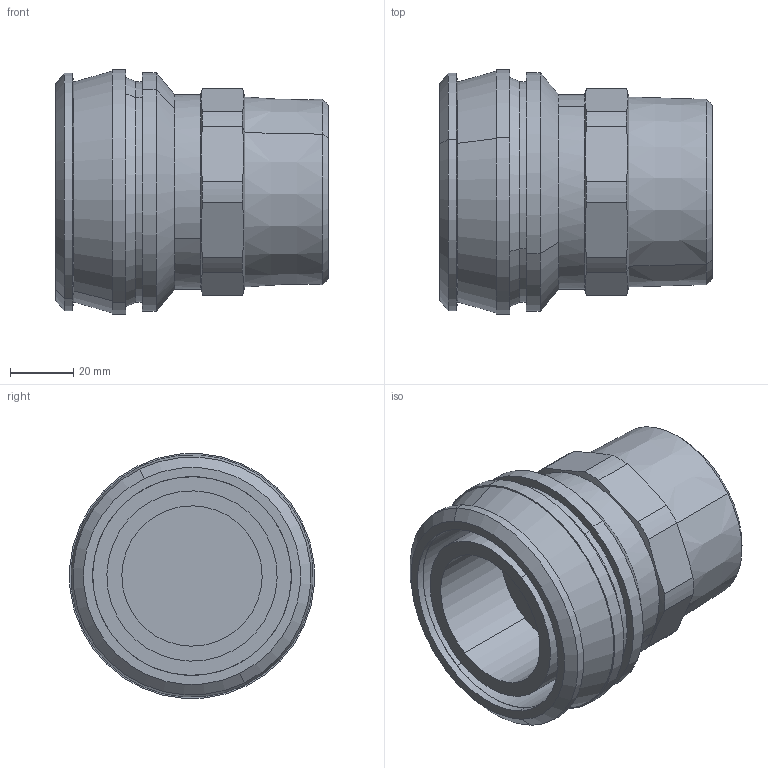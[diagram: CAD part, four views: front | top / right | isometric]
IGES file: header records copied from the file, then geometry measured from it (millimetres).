
Start section: 3D InterOp IGES (Version 25 0 1), Spatial Corp. Copyright (c) 1999-2007.
Global section: file name: pim0004687.igs; native system: Spatial Corp.; preprocessor: 3D InterOp ACIS/IGES; author: CAD-PIM; organization: TransMagic, Inc.; date: 20150617.110818; units: millimetre
Bounding box: 86.5 x 77.63 x 77.63 mm (x, y, z)
Volume: 234455.8 mm3; surface area: 41880.3 mm2
Topology: 1 solids, 1 shells, 61 faces, 167 edges, 115 vertices
Faces by surface type: cylinder 24, plane 17, cone 14, bspline 6
